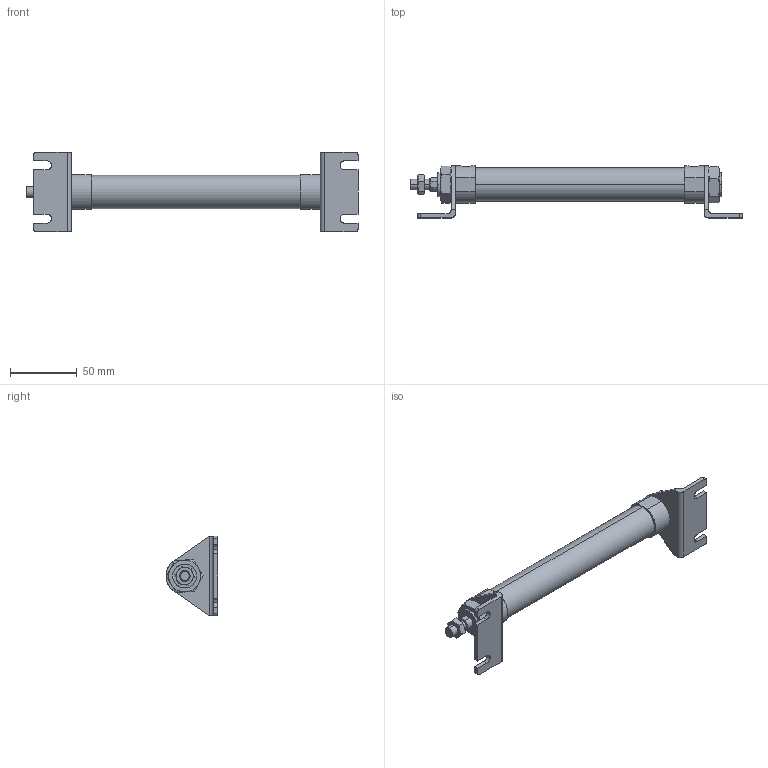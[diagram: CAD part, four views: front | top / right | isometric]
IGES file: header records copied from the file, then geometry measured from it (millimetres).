
Start section: SolidWorks IGES file using analytic representation for surfaces
Global section: file name: C:\Users\Toshiba\Desktop\J#2-20-125-L.IGS; native system: SolidWorks 2014; preprocessor: SolidWorks 2014; author: Toshiba; date: 160310.085107; units: millimetre
Bounding box: 249.2 x 39 x 60 mm (x, y, z)
Surface area: 35101 mm2 (no closed solid volume)
Topology: 0 solids, 0 shells, 168 faces, 2672 edges, 2672 vertices
Faces by surface type: bspline 110, revolution 58
